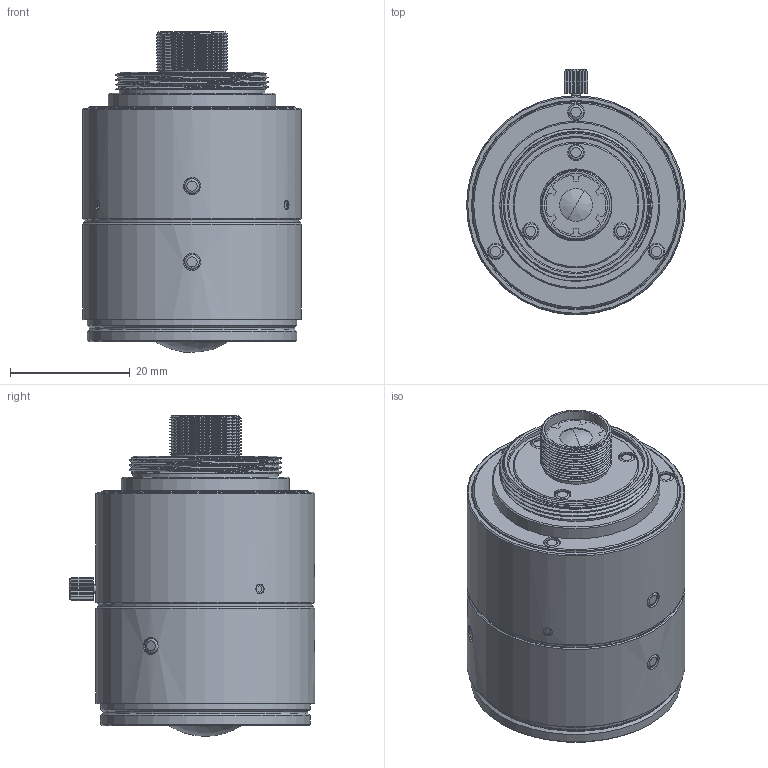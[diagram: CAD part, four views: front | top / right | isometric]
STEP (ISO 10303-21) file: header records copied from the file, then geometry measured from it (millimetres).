
FILE_DESCRIPTION( ( 'STEP AP214' ), '1' );
FILE_NAME( 'C:/Users/KMIROS~1/AppData/Local/Temp/psolqas_2660_3856.stp', '2022-07-14T07:18:52', ( 'License CC BY-ND 4.0' ), ( 'CADENAS' ), ' ', 'PARTsolutions', ' ' );
FILE_SCHEMA( ( 'AUTOMOTIVE_DESIGN { 1 0 10303 214 1 1 1 1 }' ) );
Length unit declared in the file: metre
Products named in the file (1): Join1
Bounding box: 36.5 x 40.95 x 53.47 mm (x, y, z)
Volume: 43963.3 mm3; surface area: 8196.9 mm2
Topology: 1 solids, 1 shells, 250 faces, 742 edges, 541 vertices
Faces by surface type: plane 103, cylinder 85, cone 44, torus 11, bspline 6, sphere 1
Full cylindrical faces by diameter (mm): 1.4 x1, 1.567 x3, 2.8 x10, 5.5 x1, 10.5 x1, 11.258 x1, 15.6 x1, 21 x1, 21.5 x1, 22 x1, 22.5 x1, 24.3 x2, 26.4 x1, 28 x1, 34.2 x1, 34.5 x1, 35 x2, 35.735 x1, 36.5 x2
Entity records: 14451 total; most frequent: CARTESIAN_POINT 6359, ORIENTED_EDGE 1308, DIRECTION 1088, EDGE_CURVE 654, VERTEX_POINT 519, AXIS2_PLACEMENT_3D 455, EDGE_LOOP 363, FACE_OUTER_BOUND 294
